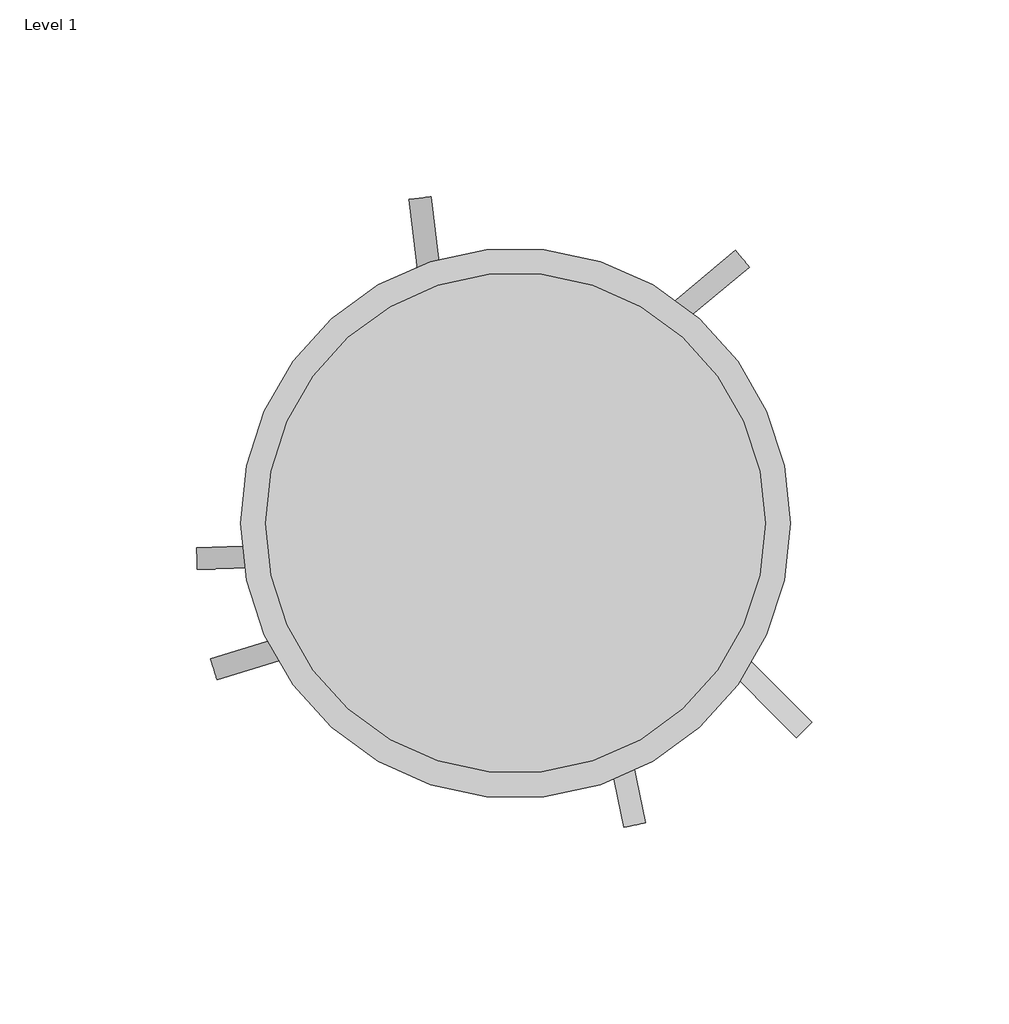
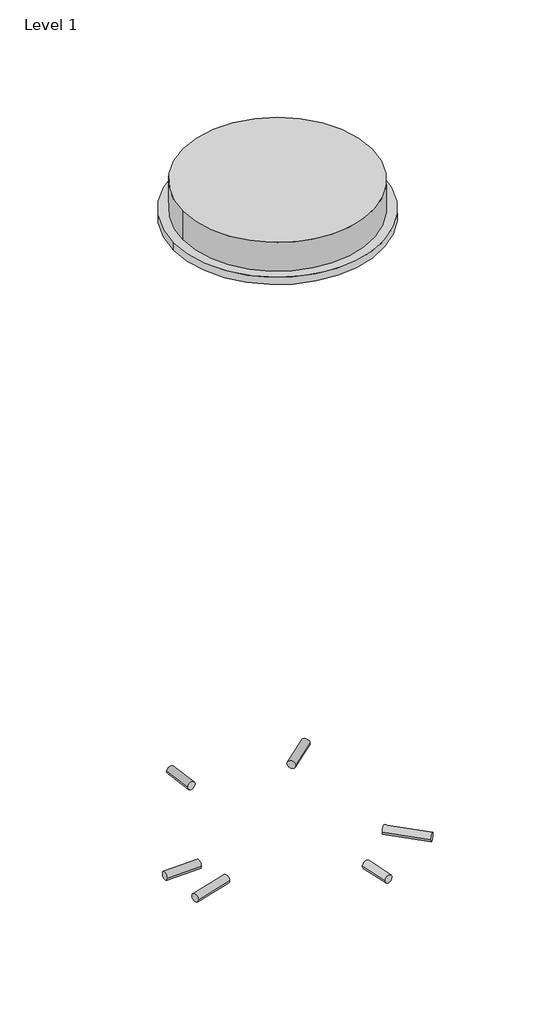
# One storey, incomplete: 2 proxies.
"""IFC4 building model written with IfcOpenShell, lengths in millimetres."""

from ifc_helpers import new_model, si_unit, point, frame, frame_2d, origin, origin_2d, place, context, project, spatial, circle_curve, trimmed, segment, composite_curve, outline, extrude, element, save
from ifc_brep_helpers import plane_surface, extruded_surface, advanced_brep

model = new_model("IFC4")

# Units and contexts
model_context = context("Model", 3, world=origin())
ifc_project = project(units=[si_unit("LENGTHUNIT", "METRE", prefix="MILLI")], contexts=[model_context])

# Site, building, storey
site = spatial("IfcSite", under=ifc_project)
building = spatial("IfcBuilding", under=site)
storey = spatial("IfcBuildingStorey", under=building, Name="Level 1", Elevation=0.0)

# Proxies
placement = place(None, origin())
element("IfcBuildingElementProxy", 1, Name="Canopy : Canopy", ObjectType="Canopy : Canopy", at=placement, inside=storey, context=model_context, shape_type="SweptSolid", body=[
    extrude(outline(composite_curve([segment(trimmed(circle_curve(frame_2d((-1299.9053501, 1555.0963594)), 63.5), [point((-1363.4053501, 1555.0963594))], [point((-1236.4053501, 1555.0963594))], False, "CARTESIAN"), True, "CONTINUOUS"), segment(trimmed(circle_curve(frame_2d((-1299.9053501, 1555.0963594)), 63.5), [point((-1236.4053501, 1555.0963594))], [point((-1363.4053501, 1555.0963594))], False, "CARTESIAN"), True, "CONTINUOUS")], self_intersect=False)), frame((0.0, 0.0, 951.2547764), z_axis=(0.0, 0.0, 1.0), x_axis=(1.0, 0.0, 0.0)), (0.0, 0.0, 1.0), 20.2952236),
    extrude(outline(composite_curve([segment(trimmed(circle_curve(frame_2d((-1299.9053501, 1555.0963594)), 69.85), [point((-1369.7553501, 1555.0963594))], [point((-1230.0553501, 1555.0963594))], False, "CARTESIAN"), True, "CONTINUOUS"), segment(trimmed(circle_curve(frame_2d((-1299.9053501, 1555.0963594)), 69.85), [point((-1230.0553501, 1555.0963594))], [point((-1369.7553501, 1555.0963594))], False, "CARTESIAN"), True, "CONTINUOUS")], self_intersect=False)), frame((0.0, 0.0, 946.15), z_axis=(0.0, 0.0, 1.0), x_axis=(1.0, 0.0, 0.0)), (0.0, 0.0, 1.0), 5.1047764),
])
element("IfcBuildingElementProxy", 2, Name="Hardware 1 : Hardware 1", ObjectType="Hardware 1 : Hardware 1", at=placement, inside=storey, context=model_context, shape_type="SolidModel", body=[
    extrude(outline(composite_curve([segment(trimmed(circle_curve(origin_2d(), 2.778125), [point((-2.778125, 0.0))], [point((2.778125, 0.0))], False, "CARTESIAN"), True, "CONTINUOUS"), segment(trimmed(circle_curve(origin_2d(), 2.778125), [point((2.778125, 0.0))], [point((-2.778125, 0.0))], False, "CARTESIAN"), True, "CONTINUOUS")], self_intersect=False)), frame((-1260.4300256, 1607.1680087, 511.0683178), z_axis=(0.7704259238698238, 0.6375295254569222, 0.0), x_axis=(-0.6375295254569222, 0.7704259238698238, 0.0)), (0.0, 0.0, 1.0), 23.7258129),
    extrude(outline(composite_curve([segment(trimmed(circle_curve(origin_2d(), 2.778125), [point((-2.778125, 0.0))], [point((2.778125, 0.0))], False, "CARTESIAN"), True, "CONTINUOUS"), segment(trimmed(circle_curve(origin_2d(), 2.778125), [point((2.778125, 0.0))], [point((-2.778125, 0.0))], False, "CARTESIAN"), True, "CONTINUOUS")], self_intersect=False)), frame((-1226.4696234, 1502.6638925, 511.0683178), z_axis=(-0.707106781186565, 0.70710678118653, 0.0), x_axis=(0.70710678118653, 0.707106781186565, 0.0)), (0.0, 0.0, 1.0), 29.1235506),
    extrude(outline(composite_curve([segment(trimmed(circle_curve(origin_2d(), 2.778125), [point((-2.7781251, 0.0))], [point((2.7781249, 0.0))], False, "CARTESIAN"), True, "CONTINUOUS"), segment(trimmed(circle_curve(origin_2d(), 2.778125), [point((2.7781249, 0.0))], [point((-2.7781251, 0.0))], False, "CARTESIAN"), True, "CONTINUOUS")], self_intersect=False)), frame((-1269.585736, 1478.4964051, 511.0683178), z_axis=(-0.2012120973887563, 0.979547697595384, 0.0), x_axis=(0.979547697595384, 0.2012120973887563, 0.0)), (0.0, 0.0, 1.0), 19.4764491),
    extrude(outline(composite_curve([segment(trimmed(circle_curve(origin_2d(), 2.778125), [point((-2.778125, 0.0))], [point((2.778125, 0.0))], False, "CARTESIAN"), True, "CONTINUOUS"), segment(trimmed(circle_curve(origin_2d(), 2.778125), [point((2.778125, 0.0))], [point((-2.778125, 0.0))], False, "CARTESIAN"), True, "CONTINUOUS")], self_intersect=False)), frame((-1376.5407452, 1518.0489276, 511.0683178), z_axis=(0.9563047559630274, 0.2923717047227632, 0.0), x_axis=(0.2923717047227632, -0.9563047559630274, 0.0)), (0.0, 0.0, 1.0), 26.4217765),
    advanced_brep(
    [(-1357.6326479, 1549.6220788, 511.0671254), (-1357.4767475, 1544.0680164, 511.0671254), (-1380.7171307, 1543.4156728, 511.0683178), (-1380.873031, 1548.9697352, 511.0683178)],
    [
        (0, 1, circle_curve(frame((-1357.5546977, 1546.8450476, 511.0671254), z_axis=(-0.9996062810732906, -0.028058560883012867, 0.0), x_axis=(0.028058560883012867, -0.9996062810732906, 0.0)), 2.778125)),
        (1, 2),
        (2, 3, circle_curve(frame((-1380.7950808, 1546.192704, 511.0683178), z_axis=(0.9996062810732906, 0.028058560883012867, 0.0), x_axis=(0.028058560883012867, -0.9996062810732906, 0.0)), 2.778125)),
        (3, 0),
        (1, 0, circle_curve(frame((-1357.5546977, 1546.8450476, 511.0671254), z_axis=(-0.9996062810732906, -0.028058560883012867, 0.0), x_axis=(0.028058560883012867, -0.9996062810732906, 0.0)), 2.778125)),
        (3, 2, circle_curve(frame((-1380.7950808, 1546.192704, 511.0683178), z_axis=(0.9996062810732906, 0.028058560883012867, 0.0), x_axis=(0.028058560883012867, -0.9996062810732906, 0.0)), 2.778125)),
    ],
    [
        extruded_surface(trimmed(circle_curve(frame((-1357.5546977, 1546.8450476, 511.0671254), z_axis=(-0.9996062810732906, -0.028058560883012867, 0.0), x_axis=(0.028058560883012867, -0.9996062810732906, 0.0)), 2.778125), [point((-1357.6326479, 1549.6220788, 511.0671254))], [point((-1357.4767475, 1544.0680164, 511.0671254))], True, "CARTESIAN"), (-23.240383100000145, -0.6523435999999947, 0.0011923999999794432), 23.2495367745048),
        extruded_surface(trimmed(circle_curve(frame((-1357.5546977, 1546.8450476, 511.0671254), z_axis=(-0.9996062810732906, -0.028058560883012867, 0.0), x_axis=(0.028058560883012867, -0.9996062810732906, 0.0)), 2.778125), [point((-1357.4767475, 1544.0680164, 511.0671254))], [point((-1357.6326479, 1549.6220788, 511.0671254))], True, "CARTESIAN"), (-23.240383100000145, -0.6523435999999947, 0.0011923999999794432), 23.2495367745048),
        plane_surface(frame((-1380.7950808, 1546.192704, 511.0683178), z_axis=(-0.9996062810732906, -0.028058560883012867, 0.0), x_axis=(0.028058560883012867, -0.9996062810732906, 0.0))),
        plane_surface(frame((-1357.5546977, 1546.8450476, 511.0671254), z_axis=(0.9996062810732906, 0.028058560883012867, 0.0), x_axis=(0.028058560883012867, -0.9996062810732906, 0.0))),
    ],
    [
        (0, [[1, 2, 3, 4]]),
        (1, [[5, -4, 6, -2]]),
        (2, [[-3, -6]]),
        (3, [[-5, -1]]),
    ],
),
    extrude(outline(composite_curve([segment(trimmed(circle_curve(origin_2d(), 2.778125), [point((-2.778125, 0.0))], [point((2.778125, 0.0))], False, "CARTESIAN"), True, "CONTINUOUS"), segment(trimmed(circle_curve(origin_2d(), 2.778125), [point((2.778125, 0.0))], [point((-2.778125, 0.0))], False, "CARTESIAN"), True, "CONTINUOUS")], self_intersect=False)), frame((-1321.6870135, 1617.8426897, 511.0683178), z_axis=(-0.12186934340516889, 0.9925461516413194, 0.0), x_axis=(-0.9925461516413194, -0.12186934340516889, 0.0)), (0.0, 0.0, 1.0), 20.0248168),
])

save(model, "model.ifc")
